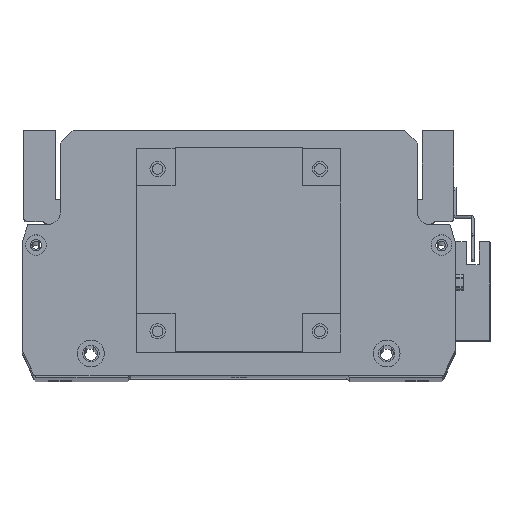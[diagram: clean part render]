
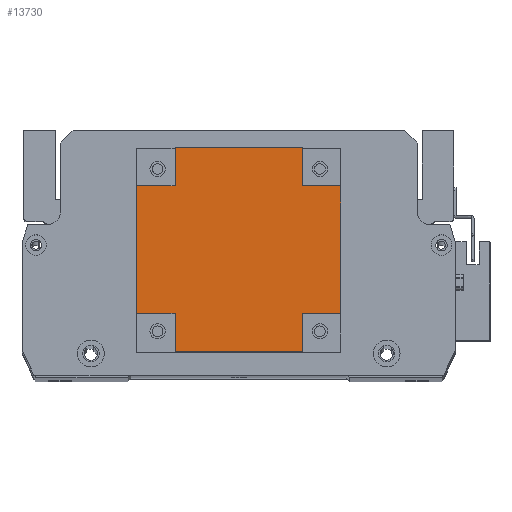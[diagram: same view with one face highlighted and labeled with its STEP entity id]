
A CAD part, top view. The second image highlights one B-rep face of the part: STEP entity #13730.
In plain terms, the highlighted planar face has unit normal (0, 0, 1).
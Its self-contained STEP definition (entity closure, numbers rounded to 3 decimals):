
#171 = CARTESIAN_POINT ( 'NONE',  ( 80., 15., 101.5 ) ) ;
#927 = ORIENTED_EDGE ( 'NONE', *, *, #9177, .F. ) ;
#944 = EDGE_CURVE ( 'NONE', #22579, #21260, #6173, .T. ) ;
#1112 = VERTEX_POINT ( 'NONE', #5775 ) ;
#1159 = ORIENTED_EDGE ( 'NONE', *, *, #12418, .F. ) ;
#1211 = LINE ( 'NONE', #171, #21888 ) ;
#1344 = DIRECTION ( 'NONE',  ( 0., -1., 0. ) ) ;
#1451 = ORIENTED_EDGE ( 'NONE', *, *, #1563, .T. ) ;
#1563 = EDGE_CURVE ( 'NONE', #15848, #4314, #15239, .T. ) ;
#2238 = CARTESIAN_POINT ( 'NONE',  ( 0., 65., 101.5 ) ) ;
#2542 = VECTOR ( 'NONE', #20097, 1000. ) ;
#2655 = VERTEX_POINT ( 'NONE', #13027 ) ;
#3044 = VECTOR ( 'NONE', #23214, 1000. ) ;
#3382 = CARTESIAN_POINT ( 'NONE',  ( 0., 0., 101.5 ) ) ;
#3454 = CARTESIAN_POINT ( 'NONE',  ( 65., 15., 101.5 ) ) ;
#3716 = EDGE_LOOP ( 'NONE', ( #11128, #21335, #13489, #23731, #10786, #927, #15255, #7127, #1159, #1451, #11939, #5202 ) ) ;
#4066 = DIRECTION ( 'NONE',  ( 0., -1., 0. ) ) ;
#4314 = VERTEX_POINT ( 'NONE', #11654 ) ;
#5202 = ORIENTED_EDGE ( 'NONE', *, *, #22053, .F. ) ;
#5434 = DIRECTION ( 'NONE',  ( 1., 0., 0. ) ) ;
#5493 = VECTOR ( 'NONE', #9917, 1000. ) ;
#5775 = CARTESIAN_POINT ( 'NONE',  ( 0., 15., 101.5 ) ) ;
#5788 = CARTESIAN_POINT ( 'NONE',  ( 0., 15., 101.5 ) ) ;
#6173 = LINE ( 'NONE', #3382, #20824 ) ;
#6223 = CARTESIAN_POINT ( 'NONE',  ( 15., 15., 101.5 ) ) ;
#6347 = VERTEX_POINT ( 'NONE', #8194 ) ;
#6696 = EDGE_CURVE ( 'NONE', #2655, #6908, #24267, .T. ) ;
#6862 = VECTOR ( 'NONE', #18398, 1000. ) ;
#6908 = VERTEX_POINT ( 'NONE', #18204 ) ;
#6992 = EDGE_CURVE ( 'NONE', #6347, #6908, #20852, .T. ) ;
#7094 = CARTESIAN_POINT ( 'NONE',  ( 80., 15., 101.5 ) ) ;
#7127 = ORIENTED_EDGE ( 'NONE', *, *, #12337, .F. ) ;
#7164 = VECTOR ( 'NONE', #8821, 1000. ) ;
#8017 = EDGE_CURVE ( 'NONE', #12537, #6347, #12454, .T. ) ;
#8194 = CARTESIAN_POINT ( 'NONE',  ( 15., 65., 101.5 ) ) ;
#8377 = EDGE_CURVE ( 'NONE', #25903, #1112, #16166, .T. ) ;
#8821 = DIRECTION ( 'NONE',  ( 1., 0., 0. ) ) ;
#9177 = EDGE_CURVE ( 'NONE', #22579, #25903, #13383, .T. ) ;
#9418 = CARTESIAN_POINT ( 'NONE',  ( 0., 80., 101.5 ) ) ;
#9655 = DIRECTION ( 'NONE',  ( 0., 1., 0. ) ) ;
#9896 = DIRECTION ( 'NONE',  ( 0., 0., -1. ) ) ;
#9917 = DIRECTION ( 'NONE',  ( -1., 0., 0. ) ) ;
#10786 = ORIENTED_EDGE ( 'NONE', *, *, #8377, .F. ) ;
#11128 = ORIENTED_EDGE ( 'NONE', *, *, #6696, .T. ) ;
#11495 = CARTESIAN_POINT ( 'NONE',  ( 0., 0., 101.5 ) ) ;
#11654 = CARTESIAN_POINT ( 'NONE',  ( 80., 65., 101.5 ) ) ;
#11939 = ORIENTED_EDGE ( 'NONE', *, *, #19904, .F. ) ;
#12282 = VERTEX_POINT ( 'NONE', #15835 ) ;
#12337 = EDGE_CURVE ( 'NONE', #20409, #21260, #14513, .T. ) ;
#12418 = EDGE_CURVE ( 'NONE', #15848, #20409, #1211, .T. ) ;
#12454 = LINE ( 'NONE', #2238, #7164 ) ;
#12537 = VERTEX_POINT ( 'NONE', #18679 ) ;
#13027 = CARTESIAN_POINT ( 'NONE',  ( 65., 80., 101.5 ) ) ;
#13383 = LINE ( 'NONE', #20366, #6862 ) ;
#13489 = ORIENTED_EDGE ( 'NONE', *, *, #8017, .F. ) ;
#13728 = CARTESIAN_POINT ( 'NONE',  ( 0., 0., 101.5 ) ) ;
#13730 = ADVANCED_FACE ( 'NONE', ( #23741 ), #17757, .F. ) ;
#13864 = LINE ( 'NONE', #23965, #2542 ) ;
#13976 = CARTESIAN_POINT ( 'NONE',  ( 80., 0., 101.5 ) ) ;
#14163 = EDGE_CURVE ( 'NONE', #12537, #1112, #21842, .T. ) ;
#14513 = LINE ( 'NONE', #16092, #19139 ) ;
#14992 = VECTOR ( 'NONE', #22671, 1000. ) ;
#15239 = LINE ( 'NONE', #13976, #25070 ) ;
#15255 = ORIENTED_EDGE ( 'NONE', *, *, #944, .T. ) ;
#15835 = CARTESIAN_POINT ( 'NONE',  ( 65., 65., 101.5 ) ) ;
#15848 = VERTEX_POINT ( 'NONE', #7094 ) ;
#15989 = CARTESIAN_POINT ( 'NONE',  ( 65., 0., 101.5 ) ) ;
#16092 = CARTESIAN_POINT ( 'NONE',  ( 65., 0., 101.5 ) ) ;
#16166 = LINE ( 'NONE', #5788, #5493 ) ;
#16656 = VECTOR ( 'NONE', #1344, 1000. ) ;
#16746 = CARTESIAN_POINT ( 'NONE',  ( 15., 80., 101.5 ) ) ;
#17171 = DIRECTION ( 'NONE',  ( 0., -1., 0. ) ) ;
#17757 = PLANE ( 'NONE',  #24926 ) ;
#18204 = CARTESIAN_POINT ( 'NONE',  ( 15., 80., 101.5 ) ) ;
#18398 = DIRECTION ( 'NONE',  ( 0., 1., 0. ) ) ;
#18523 = VECTOR ( 'NONE', #17171, 1000. ) ;
#18679 = CARTESIAN_POINT ( 'NONE',  ( 0., 65., 101.5 ) ) ;
#19139 = VECTOR ( 'NONE', #4066, 1000. ) ;
#19904 = EDGE_CURVE ( 'NONE', #12282, #4314, #13864, .T. ) ;
#20097 = DIRECTION ( 'NONE',  ( 1., 0., 0. ) ) ;
#20366 = CARTESIAN_POINT ( 'NONE',  ( 15., 0., 101.5 ) ) ;
#20409 = VERTEX_POINT ( 'NONE', #3454 ) ;
#20824 = VECTOR ( 'NONE', #5434, 1000. ) ;
#20852 = LINE ( 'NONE', #16746, #14992 ) ;
#21260 = VERTEX_POINT ( 'NONE', #15989 ) ;
#21335 = ORIENTED_EDGE ( 'NONE', *, *, #6992, .F. ) ;
#21842 = LINE ( 'NONE', #11495, #16656 ) ;
#21888 = VECTOR ( 'NONE', #22283, 1000. ) ;
#22053 = EDGE_CURVE ( 'NONE', #2655, #12282, #23733, .T. ) ;
#22283 = DIRECTION ( 'NONE',  ( -1., 0., 0. ) ) ;
#22579 = VERTEX_POINT ( 'NONE', #23899 ) ;
#22671 = DIRECTION ( 'NONE',  ( 0., 1., 0. ) ) ;
#23032 = CARTESIAN_POINT ( 'NONE',  ( 65., 80., 101.5 ) ) ;
#23214 = DIRECTION ( 'NONE',  ( -1., 0., 0. ) ) ;
#23684 = DIRECTION ( 'NONE',  ( -1., 0., 0. ) ) ;
#23731 = ORIENTED_EDGE ( 'NONE', *, *, #14163, .T. ) ;
#23733 = LINE ( 'NONE', #23032, #18523 ) ;
#23741 = FACE_OUTER_BOUND ( 'NONE', #3716, .T. ) ;
#23899 = CARTESIAN_POINT ( 'NONE',  ( 15., 0., 101.5 ) ) ;
#23965 = CARTESIAN_POINT ( 'NONE',  ( 65., 65., 101.5 ) ) ;
#24267 = LINE ( 'NONE', #9418, #3044 ) ;
#24926 = AXIS2_PLACEMENT_3D ( 'NONE', #13728, #9896, #23684 ) ;
#25070 = VECTOR ( 'NONE', #9655, 1000. ) ;
#25903 = VERTEX_POINT ( 'NONE', #6223 ) ;
